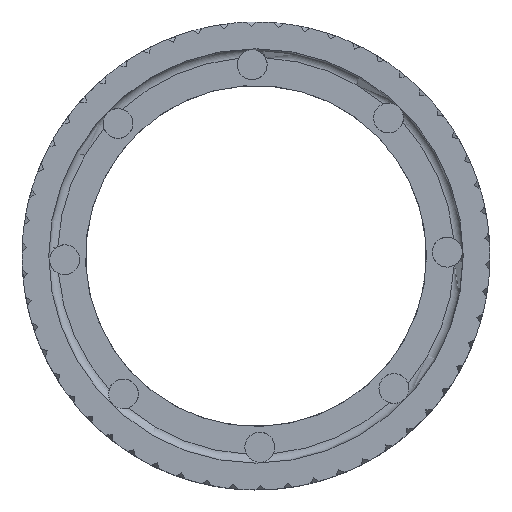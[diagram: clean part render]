
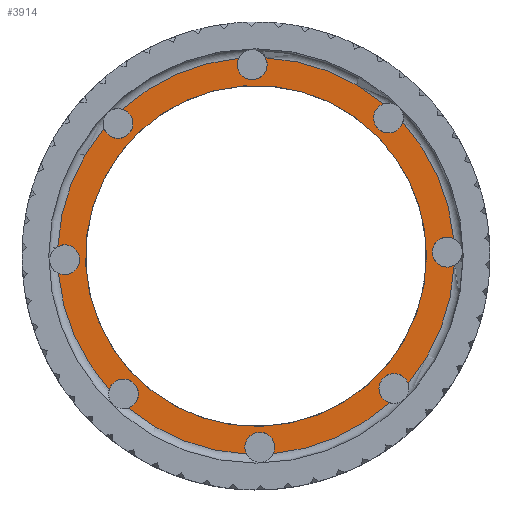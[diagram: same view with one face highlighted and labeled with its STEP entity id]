
A CAD part, top view. The second image highlights one B-rep face of the part: STEP entity #3914.
In plain terms, the highlighted planar face has unit normal (0, 0, 1).
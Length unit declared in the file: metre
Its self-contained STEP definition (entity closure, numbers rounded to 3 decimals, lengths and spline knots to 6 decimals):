
#403=PLANE('',#4166);
#493=CIRCLE('',#4167,0.03375);
#494=CIRCLE('',#4168,0.00255);
#495=CIRCLE('',#4169,0.03375);
#496=CIRCLE('',#4170,0.00255);
#497=CIRCLE('',#4171,0.03375);
#498=CIRCLE('',#4172,0.00255);
#499=CIRCLE('',#4173,0.03375);
#500=CIRCLE('',#4174,0.00255);
#501=CIRCLE('',#4175,0.03375);
#502=CIRCLE('',#4176,0.00255);
#503=CIRCLE('',#4177,0.03375);
#504=CIRCLE('',#4178,0.00255);
#505=CIRCLE('',#4179,0.03375);
#506=CIRCLE('',#4180,0.00255);
#507=CIRCLE('',#4181,0.03375);
#508=CIRCLE('',#4182,0.00255);
#509=CIRCLE('',#4183,0.029);
#671=ORIENTED_EDGE('',*,*,#2003,.T.);
#672=ORIENTED_EDGE('',*,*,#2004,.T.);
#673=ORIENTED_EDGE('',*,*,#2005,.T.);
#674=ORIENTED_EDGE('',*,*,#2006,.T.);
#675=ORIENTED_EDGE('',*,*,#2007,.T.);
#676=ORIENTED_EDGE('',*,*,#2008,.T.);
#677=ORIENTED_EDGE('',*,*,#2009,.T.);
#678=ORIENTED_EDGE('',*,*,#2010,.T.);
#679=ORIENTED_EDGE('',*,*,#2011,.T.);
#680=ORIENTED_EDGE('',*,*,#2012,.T.);
#681=ORIENTED_EDGE('',*,*,#2013,.T.);
#682=ORIENTED_EDGE('',*,*,#2014,.T.);
#683=ORIENTED_EDGE('',*,*,#2015,.T.);
#684=ORIENTED_EDGE('',*,*,#2016,.T.);
#685=ORIENTED_EDGE('',*,*,#2017,.T.);
#686=ORIENTED_EDGE('',*,*,#2018,.T.);
#687=ORIENTED_EDGE('',*,*,#2019,.T.);
#2003=EDGE_CURVE('',#2669,#2670,#493,.F.);
#2004=EDGE_CURVE('',#2670,#2671,#494,.T.);
#2005=EDGE_CURVE('',#2671,#2672,#495,.F.);
#2006=EDGE_CURVE('',#2672,#2673,#496,.T.);
#2007=EDGE_CURVE('',#2673,#2674,#497,.F.);
#2008=EDGE_CURVE('',#2674,#2675,#498,.T.);
#2009=EDGE_CURVE('',#2675,#2676,#499,.F.);
#2010=EDGE_CURVE('',#2676,#2677,#500,.T.);
#2011=EDGE_CURVE('',#2677,#2678,#501,.F.);
#2012=EDGE_CURVE('',#2678,#2679,#502,.T.);
#2013=EDGE_CURVE('',#2679,#2680,#503,.F.);
#2014=EDGE_CURVE('',#2680,#2681,#504,.T.);
#2015=EDGE_CURVE('',#2681,#2682,#505,.F.);
#2016=EDGE_CURVE('',#2682,#2683,#506,.T.);
#2017=EDGE_CURVE('',#2683,#2684,#507,.F.);
#2018=EDGE_CURVE('',#2684,#2669,#508,.T.);
#2019=EDGE_CURVE('',#2685,#2685,#509,.T.);
#2669=VERTEX_POINT('',#5151);
#2670=VERTEX_POINT('',#5152);
#2671=VERTEX_POINT('',#5154);
#2672=VERTEX_POINT('',#5156);
#2673=VERTEX_POINT('',#5158);
#2674=VERTEX_POINT('',#5160);
#2675=VERTEX_POINT('',#5162);
#2676=VERTEX_POINT('',#5164);
#2677=VERTEX_POINT('',#5166);
#2678=VERTEX_POINT('',#5168);
#2679=VERTEX_POINT('',#5170);
#2680=VERTEX_POINT('',#5172);
#2681=VERTEX_POINT('',#5174);
#2682=VERTEX_POINT('',#5176);
#2683=VERTEX_POINT('',#5178);
#2684=VERTEX_POINT('',#5180);
#2685=VERTEX_POINT('',#5183);
#3403=EDGE_LOOP('',(#671,#672,#673,#674,#675,#676,#677,#678,#679,#680,#681,
#682,#683,#684,#685,#686));
#3404=EDGE_LOOP('',(#687));
#3658=FACE_BOUND('',#3403,.T.);
#3659=FACE_BOUND('',#3404,.T.);
#3914=ADVANCED_FACE('',(#3658,#3659),#403,.F.);
#4166=AXIS2_PLACEMENT_3D('',#5149,#4417,#4418);
#4167=AXIS2_PLACEMENT_3D('',#5150,#4419,#4420);
#4168=AXIS2_PLACEMENT_3D('',#5153,#4421,#4422);
#4169=AXIS2_PLACEMENT_3D('',#5155,#4423,#4424);
#4170=AXIS2_PLACEMENT_3D('',#5157,#4425,#4426);
#4171=AXIS2_PLACEMENT_3D('',#5159,#4427,#4428);
#4172=AXIS2_PLACEMENT_3D('',#5161,#4429,#4430);
#4173=AXIS2_PLACEMENT_3D('',#5163,#4431,#4432);
#4174=AXIS2_PLACEMENT_3D('',#5165,#4433,#4434);
#4175=AXIS2_PLACEMENT_3D('',#5167,#4435,#4436);
#4176=AXIS2_PLACEMENT_3D('',#5169,#4437,#4438);
#4177=AXIS2_PLACEMENT_3D('',#5171,#4439,#4440);
#4178=AXIS2_PLACEMENT_3D('',#5173,#4441,#4442);
#4179=AXIS2_PLACEMENT_3D('',#5175,#4443,#4444);
#4180=AXIS2_PLACEMENT_3D('',#5177,#4445,#4446);
#4181=AXIS2_PLACEMENT_3D('',#5179,#4447,#4448);
#4182=AXIS2_PLACEMENT_3D('',#5181,#4449,#4450);
#4183=AXIS2_PLACEMENT_3D('',#5182,#4451,#4452);
#4417=DIRECTION('',(0.,0.,-1.));
#4418=DIRECTION('',(0.819,0.574,0.));
#4419=DIRECTION('',(0.,0.,-1.));
#4420=DIRECTION('',(1.,0.,0.));
#4421=DIRECTION('',(0.,0.,-1.));
#4422=DIRECTION('',(1.,0.,0.));
#4423=DIRECTION('',(0.,0.,-1.));
#4424=DIRECTION('',(1.,0.,0.));
#4425=DIRECTION('',(0.,0.,-1.));
#4426=DIRECTION('',(1.,0.,0.));
#4427=DIRECTION('',(0.,0.,-1.));
#4428=DIRECTION('',(1.,0.,0.));
#4429=DIRECTION('',(0.,0.,-1.));
#4430=DIRECTION('',(1.,0.,0.));
#4431=DIRECTION('',(0.,0.,-1.));
#4432=DIRECTION('',(1.,0.,0.));
#4433=DIRECTION('',(0.,0.,-1.));
#4434=DIRECTION('',(1.,0.,0.));
#4435=DIRECTION('',(0.,0.,-1.));
#4436=DIRECTION('',(1.,0.,0.));
#4437=DIRECTION('',(0.,0.,-1.));
#4438=DIRECTION('',(1.,0.,0.));
#4439=DIRECTION('',(0.,0.,-1.));
#4440=DIRECTION('',(1.,0.,0.));
#4441=DIRECTION('',(0.,0.,-1.));
#4442=DIRECTION('',(1.,0.,0.));
#4443=DIRECTION('',(0.,0.,-1.));
#4444=DIRECTION('',(1.,0.,0.));
#4445=DIRECTION('',(0.,0.,-1.));
#4446=DIRECTION('',(1.,0.,0.));
#4447=DIRECTION('',(0.,0.,-1.));
#4448=DIRECTION('',(1.,0.,0.));
#4449=DIRECTION('',(0.,0.,-1.));
#4450=DIRECTION('',(1.,0.,0.));
#4451=DIRECTION('',(0.,0.,-1.));
#4452=DIRECTION('',(1.,0.,0.));
#5149=CARTESIAN_POINT('',(0.,0.,0.0738));
#5150=CARTESIAN_POINT('',(0.,0.,0.0738));
#5151=CARTESIAN_POINT('',(-0.025871,0.021674,0.0738));
#5152=CARTESIAN_POINT('',(-0.033712,0.001611,0.0738));
#5153=CARTESIAN_POINT('',(-0.032543,-0.000656,0.0738));
#5154=CARTESIAN_POINT('',(-0.033619,-0.002968,0.0738));
#5155=CARTESIAN_POINT('',(0.,0.,0.0738));
#5156=CARTESIAN_POINT('',(-0.024976,-0.022699,0.0738));
#5157=CARTESIAN_POINT('',(-0.022548,-0.023476,0.0738));
#5158=CARTESIAN_POINT('',(-0.021674,-0.025871,0.0738));
#5159=CARTESIAN_POINT('',(0.,0.,0.0738));
#5160=CARTESIAN_POINT('',(-0.001611,-0.033712,0.0738));
#5161=CARTESIAN_POINT('',(0.000656,-0.032543,0.0738));
#5162=CARTESIAN_POINT('',(0.002968,-0.033619,0.0738));
#5163=CARTESIAN_POINT('',(0.,0.,0.0738));
#5164=CARTESIAN_POINT('',(0.022699,-0.024976,0.0738));
#5165=CARTESIAN_POINT('',(0.023476,-0.022548,0.0738));
#5166=CARTESIAN_POINT('',(0.025871,-0.021674,0.0738));
#5167=CARTESIAN_POINT('',(0.,0.,0.0738));
#5168=CARTESIAN_POINT('',(0.033712,-0.001611,0.0738));
#5169=CARTESIAN_POINT('',(0.032543,0.000656,0.0738));
#5170=CARTESIAN_POINT('',(0.033619,0.002968,0.0738));
#5171=CARTESIAN_POINT('',(0.,0.,0.0738));
#5172=CARTESIAN_POINT('',(0.024976,0.022699,0.0738));
#5173=CARTESIAN_POINT('',(0.022548,0.023476,0.0738));
#5174=CARTESIAN_POINT('',(0.021674,0.025871,0.0738));
#5175=CARTESIAN_POINT('',(0.,0.,0.0738));
#5176=CARTESIAN_POINT('',(0.001611,0.033712,0.0738));
#5177=CARTESIAN_POINT('',(-0.000656,0.032543,0.0738));
#5178=CARTESIAN_POINT('',(-0.002968,0.033619,0.0738));
#5179=CARTESIAN_POINT('',(0.,0.,0.0738));
#5180=CARTESIAN_POINT('',(-0.022699,0.024976,0.0738));
#5181=CARTESIAN_POINT('',(-0.023476,0.022548,0.0738));
#5182=CARTESIAN_POINT('',(0.,0.,0.0738));
#5183=CARTESIAN_POINT('',(0.029,0.,0.0738));
